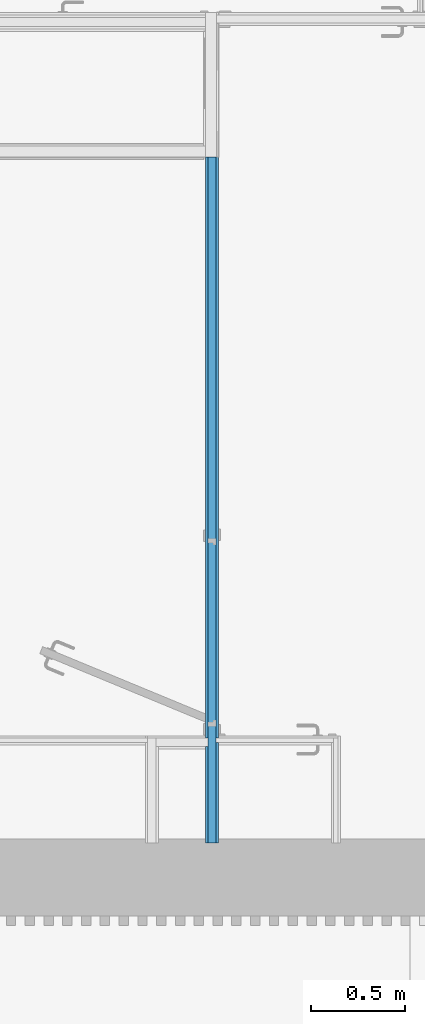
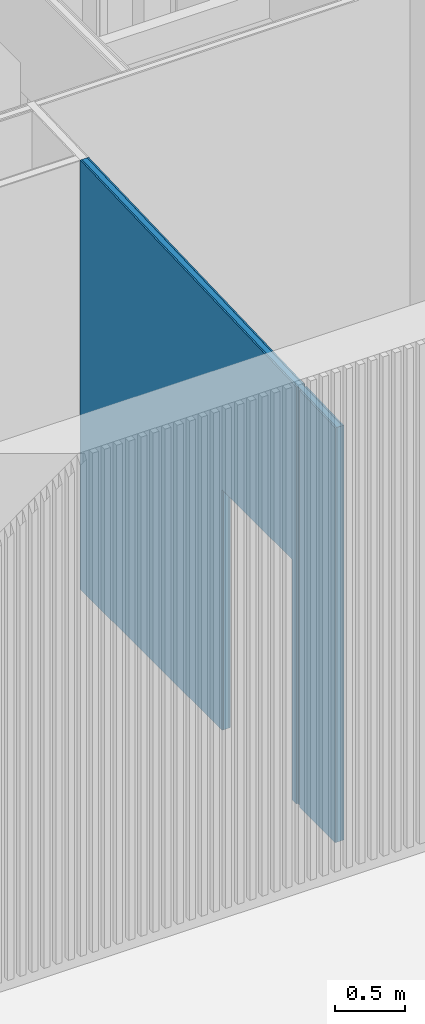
# One storey, part 28 of 34: 3 building element parts, 1 opening, 1 element without a shape of its own.
"""IFC2X3 building model written with IfcOpenShell, lengths in metres."""

from ifc_helpers import new_model, entity, si_unit, converted_unit, derived_unit, money_unit, direction, frame, origin_with_axes, origin_2d_with_axis, place, context, subcontext, project, spatial, polyline, rectangle, outline, extrude, boolean, faceted_brep, material, type_object, element, aggregate, save


model = new_model("IFC2X3")

# Units and contexts
model_context = context("Model", 3, precision=1e-05, world=origin_with_axes(), true_north=direction((0.0, 1.0)))
body_context = subcontext(model_context, "Body", "Model", "MODEL_VIEW")
ifc_project = project(units=[si_unit("LENGTHUNIT", "METRE"), si_unit("AREAUNIT", "SQUARE_METRE"), si_unit("VOLUMEUNIT", "CUBIC_METRE"), converted_unit("PLANEANGLEUNIT", "DEGREE", entity("IfcPlaneAngleMeasure", 0.0174532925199), si_unit("PLANEANGLEUNIT", "RADIAN"), dimensions=[0, 0, 0, 0, 0, 0, 0]), money_unit("CHF"), converted_unit("TIMEUNIT", "Year", entity("IfcTimeMeasure", 31556926.0), si_unit("TIMEUNIT", "SECOND"), dimensions=[0, 0, 1, 0, 0, 0, 0]), si_unit("MASSUNIT", "GRAM", prefix="KILO"), si_unit("THERMODYNAMICTEMPERATUREUNIT", "DEGREE_CELSIUS"), si_unit("LUMINOUSINTENSITYUNIT", "LUMEN"), si_unit("ENERGYUNIT", "JOULE", prefix="MEGA"), derived_unit("THERMALCONDUCTANCEUNIT", [(si_unit("POWERUNIT", "WATT"), 1), (si_unit("LENGTHUNIT", "METRE"), -1), (si_unit("THERMODYNAMICTEMPERATUREUNIT", "KELVIN"), -1)]), derived_unit("SPECIFICHEATCAPACITYUNIT", [(si_unit("ENERGYUNIT", "JOULE"), 1), (si_unit("MASSUNIT", "GRAM", prefix="KILO"), -1), (si_unit("THERMODYNAMICTEMPERATUREUNIT", "KELVIN"), -1)]), derived_unit("MASSDENSITYUNIT", [(si_unit("MASSUNIT", "GRAM", prefix="KILO"), 1), (si_unit("VOLUMEUNIT", "CUBIC_METRE"), -1)])], contexts=[model_context])

# Site, building, storey
site_placement = place(None, origin_with_axes())
site = spatial("IfcSite", under=ifc_project, at=site_placement, Name="Site", CompositionType="ELEMENT")
building_placement = place(site_placement, origin_with_axes())
building = spatial("IfcBuilding", under=site, at=building_placement, Name="Bâtiment", CompositionType="ELEMENT")
storey_placement = place(building_placement, origin_with_axes())
storey = spatial("IfcBuildingStorey", under=building, at=storey_placement, Name="Rez-de-chaussée", CompositionType="ELEMENT", Elevation=0.0)

# Wall, opening, building element parts
wall_type = type_object("IfcWallType", Name="Cloison 72/48 70", PredefinedType="NOTDEFINED")
wall_placement = place(storey_placement, frame((30.4994697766, 6.46012566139, 0.0), z_axis=(0.0, 0.0, 1.0), x_axis=(0.0, 1.0, 0.0)))
wall = element("IfcWall", 1, at=wall_placement, inside=storey, type_object=wall_type, Name="MUR_EXT-006")
opening_placement = place(wall_placement, frame((1.22, 0.0, 0.0), z_axis=(0.0, 0.0, 1.0), x_axis=(1.0, 0.0, 0.0)))
element("IfcOpeningElement", 2, at=opening_placement, cuts=wall, Name="PORTE-PP90 A2 - PF1/2H", context=body_context, shape_type="SweptSolid", body=[
    extrude(rectangle(XDim=1.0, YDim=2.1, at=origin_2d_with_axis()), frame((0.0, -0.07, 1.05), z_axis=(0.0, -1.0, 0.0), x_axis=(-1.0, 0.0, 0.0)), (0.0, 0.0, -1.0), 0.21),
    extrude(rectangle(XDim=1.1, YDim=2.15, at=origin_2d_with_axis()), frame((0.0, -0.07, 1.075), z_axis=(0.0, -1.0, 0.0), x_axis=(-1.0, 0.0, 0.0)), (0.0, 0.0, 1.0), 0.07),
    extrude(rectangle(XDim=1.09, YDim=2.145, at=origin_2d_with_axis()), frame((0.0, 0.0, 1.0725), z_axis=(0.0, 1.0, 0.0), x_axis=(-1.0, 0.0, 0.0)), (0.0, 0.0, 1.0), 0.07),
])
ifc_material_1 = material(Name="Finition int - Plaque de plâtre")
building_element_part_1_placement = place(wall_placement, origin_with_axes())
building_element_part_1 = element("IfcBuildingElementPart", 3, at=building_element_part_1_placement, material=ifc_material_1, Name="Finition int - Plaque de plâtre", context=body_context, shape_type="CSG", body=[
    boolean("DIFFERENCE", boolean("DIFFERENCE", boolean("DIFFERENCE", extrude(outline(polyline([(-0.29, -0.013), (3.75, -0.013), (3.75, 0.0), (-0.29, 0.0), (-0.29, -0.013)])), origin_with_axes(), (0.0, 0.0, 1.0), 4.0), faceted_brep([(0.657, -0.013, 0.0), (0.657, -0.013, 3.64259939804), (3.75, -0.013, 3.75085439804), (3.75, -0.013, 4.0), (-0.29, -0.013, 4.0), (-0.29, -0.013, 0.0), (0.1, -0.013, 0.0), (0.10000000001, -0.013, 3.62310439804), (0.613, -0.013, 3.64105939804), (0.613, -0.013, 0.0), (0.657, 0.0, 0.0), (0.657, 0.0, 3.64259939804), (3.75, 0.0, 3.75085439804), (3.75, 0.0, 4.0), (-0.29, 0.0, 4.0), (-0.29, 0.0, 0.0), (0.1, 0.0, 0.0), (0.10000000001, 0.0, 3.62310439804), (0.613, 0.0, 3.64105939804), (0.613, 0.0, 0.0)], [[[0, 1, 2, 3, 4, 5, 6, 7, 8, 9]], [[1, 0, 10, 11]], [[12, 2, 1, 11]], [[2, 12, 13, 3]], [[14, 4, 3, 13]], [[14, 15, 5, 4]], [[16, 6, 5, 15]], [[6, 16, 17, 7]], [[8, 7, 17, 18]], [[9, 8, 18, 19]], [[10, 0, 9, 19]], [[11, 10, 19, 18, 17, 16, 15, 14, 13, 12]]])), faceted_brep([(0.633, -0.057, 3.64175939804), (0.657, -0.057, 3.64259939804), (3.75, -0.057, 3.75085439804), (3.75, -0.057, 4.0), (-0.29, -0.057, 4.0), (-0.29, -0.057, 0.0), (0.1, -0.057, 0.0), (0.10000000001, -0.057, 3.62310439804), (3.75, -0.013, 3.75085439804), (0.10000000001, -0.013, 3.62310439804), (0.613, -0.013, 3.64105939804), (0.657, -0.013, 3.64259939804), (3.75, -0.013, 4.0), (-0.29, -0.013, 4.0), (-0.29, -0.013, 0.0), (0.1, -0.013, 0.0)], [[[0, 1, 2, 3, 4, 5, 6, 7]], [[8, 2, 1, 0, 7, 9, 10, 11]], [[2, 8, 12, 3]], [[13, 4, 3, 12]], [[13, 14, 5, 4]], [[15, 6, 5, 14]], [[6, 15, 9, 7]], [[9, 15, 14, 13, 12, 8, 11, 10]]])), faceted_brep([(0.657, -0.07, 0.0), (0.657, -0.07, 3.64259939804), (3.75, -0.07, 3.75085439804), (3.75, -0.07, 4.0), (-0.29, -0.07, 4.0), (-0.29, -0.07, 0.0), (0.1, -0.07, 0.0), (0.10000000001, -0.07, 3.62310439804), (0.633, -0.07, 3.64175939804), (0.633, -0.07, 0.0), (0.657, -0.057, 0.0), (0.657, -0.057, 3.64259939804), (3.75, -0.057, 3.75085439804), (3.75, -0.057, 4.0), (-0.29, -0.057, 4.0), (-0.29, -0.057, 0.0), (0.1, -0.057, 0.0), (0.10000000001, -0.057, 3.62310439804), (0.633, -0.057, 3.64175939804), (0.633, -0.057, 0.0)], [[[0, 1, 2, 3, 4, 5, 6, 7, 8, 9]], [[1, 0, 10, 11]], [[12, 2, 1, 11]], [[2, 12, 13, 3]], [[14, 4, 3, 13]], [[14, 15, 5, 4]], [[16, 6, 5, 15]], [[7, 6, 16, 17]], [[8, 7, 17, 18]], [[9, 8, 18, 19]], [[10, 0, 9, 19]], [[11, 10, 19, 18, 17, 16, 15, 14, 13, 12]]])),
])
ifc_material_2 = material(Name="Isolation - Laine de verre")
building_element_part_2_placement = place(wall_placement, origin_with_axes())
building_element_part_2 = element("IfcBuildingElementPart", 4, at=building_element_part_2_placement, material=ifc_material_2, Name="Isolation - Laine de verre", context=body_context, shape_type="CSG", body=[
    boolean("DIFFERENCE", boolean("DIFFERENCE", boolean("DIFFERENCE", extrude(outline(polyline([(-0.29, -0.057), (3.75, -0.057), (3.75, -0.013), (-0.29, -0.013), (-0.29, -0.057)])), origin_with_axes(), (0.0, 0.0, 1.0), 4.0), faceted_brep([(0.657, -0.013, 0.0), (0.657, -0.013, 3.64259939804), (3.75, -0.013, 3.75085439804), (3.75, -0.013, 4.0), (-0.29, -0.013, 4.0), (-0.29, -0.013, 0.0), (0.1, -0.013, 0.0), (0.10000000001, -0.013, 3.62310439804), (0.613, -0.013, 3.64105939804), (0.613, -0.013, 0.0), (0.657, 0.0, 0.0), (0.657, 0.0, 3.64259939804), (3.75, 0.0, 3.75085439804), (3.75, 0.0, 4.0), (-0.29, 0.0, 4.0), (-0.29, 0.0, 0.0), (0.1, 0.0, 0.0), (0.10000000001, 0.0, 3.62310439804), (0.613, 0.0, 3.64105939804), (0.613, 0.0, 0.0)], [[[0, 1, 2, 3, 4, 5, 6, 7, 8, 9]], [[1, 0, 10, 11]], [[12, 2, 1, 11]], [[2, 12, 13, 3]], [[14, 4, 3, 13]], [[14, 15, 5, 4]], [[16, 6, 5, 15]], [[6, 16, 17, 7]], [[8, 7, 17, 18]], [[9, 8, 18, 19]], [[10, 0, 9, 19]], [[11, 10, 19, 18, 17, 16, 15, 14, 13, 12]]])), faceted_brep([(0.633, -0.057, 3.64175939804), (0.657, -0.057, 3.64259939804), (3.75, -0.057, 3.75085439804), (3.75, -0.057, 4.0), (-0.29, -0.057, 4.0), (-0.29, -0.057, 0.0), (0.1, -0.057, 0.0), (0.10000000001, -0.057, 3.62310439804), (3.75, -0.013, 3.75085439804), (0.10000000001, -0.013, 3.62310439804), (0.613, -0.013, 3.64105939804), (0.657, -0.013, 3.64259939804), (3.75, -0.013, 4.0), (-0.29, -0.013, 4.0), (-0.29, -0.013, 0.0), (0.1, -0.013, 0.0)], [[[0, 1, 2, 3, 4, 5, 6, 7]], [[8, 2, 1, 0, 7, 9, 10, 11]], [[2, 8, 12, 3]], [[13, 4, 3, 12]], [[13, 14, 5, 4]], [[15, 6, 5, 14]], [[6, 15, 9, 7]], [[9, 15, 14, 13, 12, 8, 11, 10]]])), faceted_brep([(0.657, -0.07, 0.0), (0.657, -0.07, 3.64259939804), (3.75, -0.07, 3.75085439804), (3.75, -0.07, 4.0), (-0.29, -0.07, 4.0), (-0.29, -0.07, 0.0), (0.1, -0.07, 0.0), (0.10000000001, -0.07, 3.62310439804), (0.633, -0.07, 3.64175939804), (0.633, -0.07, 0.0), (0.657, -0.057, 0.0), (0.657, -0.057, 3.64259939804), (3.75, -0.057, 3.75085439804), (3.75, -0.057, 4.0), (-0.29, -0.057, 4.0), (-0.29, -0.057, 0.0), (0.1, -0.057, 0.0), (0.10000000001, -0.057, 3.62310439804), (0.633, -0.057, 3.64175939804), (0.633, -0.057, 0.0)], [[[0, 1, 2, 3, 4, 5, 6, 7, 8, 9]], [[1, 0, 10, 11]], [[12, 2, 1, 11]], [[2, 12, 13, 3]], [[14, 4, 3, 13]], [[14, 15, 5, 4]], [[16, 6, 5, 15]], [[7, 6, 16, 17]], [[8, 7, 17, 18]], [[9, 8, 18, 19]], [[10, 0, 9, 19]], [[11, 10, 19, 18, 17, 16, 15, 14, 13, 12]]])),
])
building_element_part_3_placement = place(wall_placement, origin_with_axes())
building_element_part_3 = element("IfcBuildingElementPart", 5, at=building_element_part_3_placement, material=ifc_material_1, Name="Finition int - Plaque de plâtre", context=body_context, shape_type="CSG", body=[
    boolean("DIFFERENCE", boolean("DIFFERENCE", boolean("DIFFERENCE", extrude(outline(polyline([(-0.29, -0.07), (3.75, -0.07), (3.75, -0.057), (-0.29, -0.057), (-0.29, -0.07)])), origin_with_axes(), (0.0, 0.0, 1.0), 4.0), faceted_brep([(0.657, -0.013, 0.0), (0.657, -0.013, 3.64259939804), (3.75, -0.013, 3.75085439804), (3.75, -0.013, 4.0), (-0.29, -0.013, 4.0), (-0.29, -0.013, 0.0), (0.1, -0.013, 0.0), (0.10000000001, -0.013, 3.62310439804), (0.613, -0.013, 3.64105939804), (0.613, -0.013, 0.0), (0.657, 0.0, 0.0), (0.657, 0.0, 3.64259939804), (3.75, 0.0, 3.75085439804), (3.75, 0.0, 4.0), (-0.29, 0.0, 4.0), (-0.29, 0.0, 0.0), (0.1, 0.0, 0.0), (0.10000000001, 0.0, 3.62310439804), (0.613, 0.0, 3.64105939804), (0.613, 0.0, 0.0)], [[[0, 1, 2, 3, 4, 5, 6, 7, 8, 9]], [[1, 0, 10, 11]], [[12, 2, 1, 11]], [[2, 12, 13, 3]], [[14, 4, 3, 13]], [[14, 15, 5, 4]], [[16, 6, 5, 15]], [[6, 16, 17, 7]], [[8, 7, 17, 18]], [[9, 8, 18, 19]], [[10, 0, 9, 19]], [[11, 10, 19, 18, 17, 16, 15, 14, 13, 12]]])), faceted_brep([(0.633, -0.057, 3.64175939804), (0.657, -0.057, 3.64259939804), (3.75, -0.057, 3.75085439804), (3.75, -0.057, 4.0), (-0.29, -0.057, 4.0), (-0.29, -0.057, 0.0), (0.1, -0.057, 0.0), (0.10000000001, -0.057, 3.62310439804), (3.75, -0.013, 3.75085439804), (0.10000000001, -0.013, 3.62310439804), (0.613, -0.013, 3.64105939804), (0.657, -0.013, 3.64259939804), (3.75, -0.013, 4.0), (-0.29, -0.013, 4.0), (-0.29, -0.013, 0.0), (0.1, -0.013, 0.0)], [[[0, 1, 2, 3, 4, 5, 6, 7]], [[8, 2, 1, 0, 7, 9, 10, 11]], [[2, 8, 12, 3]], [[13, 4, 3, 12]], [[13, 14, 5, 4]], [[15, 6, 5, 14]], [[6, 15, 9, 7]], [[9, 15, 14, 13, 12, 8, 11, 10]]])), faceted_brep([(0.657, -0.07, 0.0), (0.657, -0.07, 3.64259939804), (3.75, -0.07, 3.75085439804), (3.75, -0.07, 4.0), (-0.29, -0.07, 4.0), (-0.29, -0.07, 0.0), (0.1, -0.07, 0.0), (0.10000000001, -0.07, 3.62310439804), (0.633, -0.07, 3.64175939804), (0.633, -0.07, 0.0), (0.657, -0.057, 0.0), (0.657, -0.057, 3.64259939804), (3.75, -0.057, 3.75085439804), (3.75, -0.057, 4.0), (-0.29, -0.057, 4.0), (-0.29, -0.057, 0.0), (0.1, -0.057, 0.0), (0.10000000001, -0.057, 3.62310439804), (0.633, -0.057, 3.64175939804), (0.633, -0.057, 0.0)], [[[0, 1, 2, 3, 4, 5, 6, 7, 8, 9]], [[1, 0, 10, 11]], [[12, 2, 1, 11]], [[2, 12, 13, 3]], [[14, 4, 3, 13]], [[14, 15, 5, 4]], [[16, 6, 5, 15]], [[7, 6, 16, 17]], [[8, 7, 17, 18]], [[9, 8, 18, 19]], [[10, 0, 9, 19]], [[11, 10, 19, 18, 17, 16, 15, 14, 13, 12]]])),
])
aggregate(wall, [building_element_part_1, building_element_part_2, building_element_part_3])

save(model, "model.ifc")
